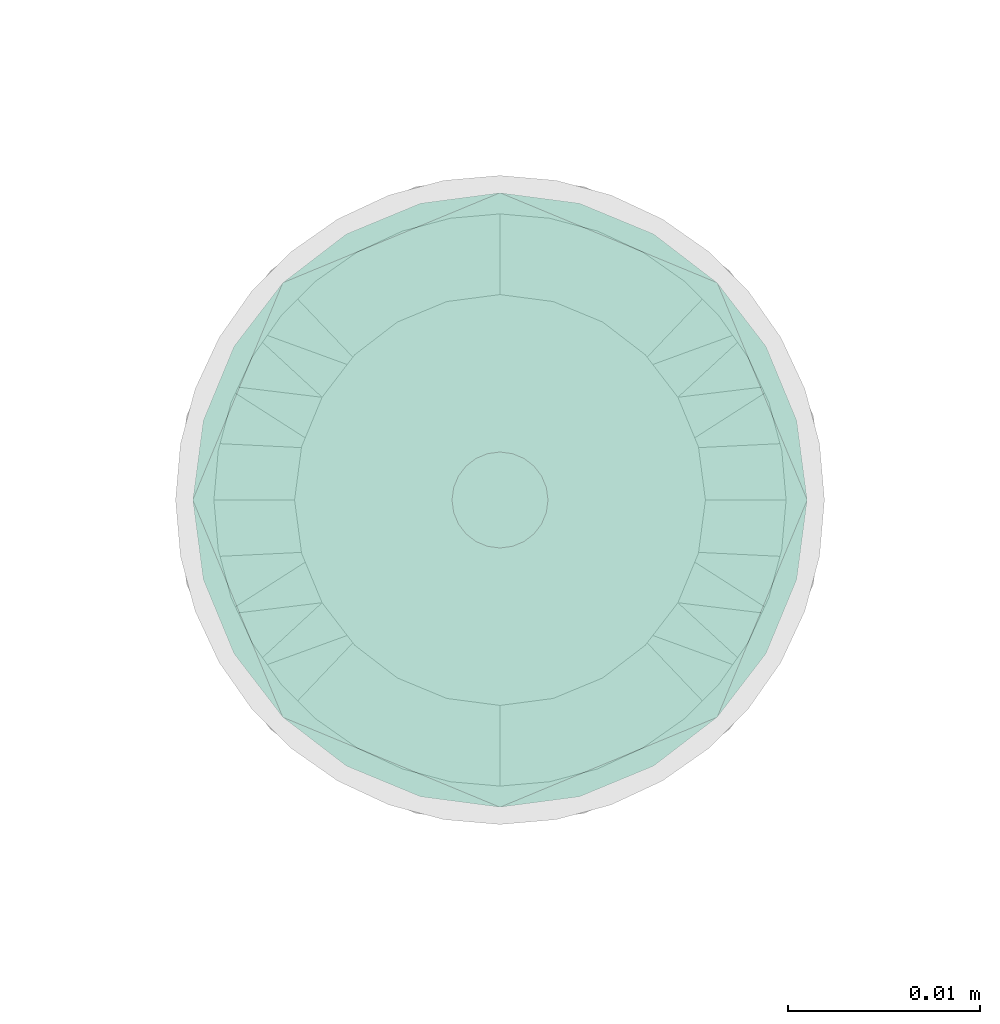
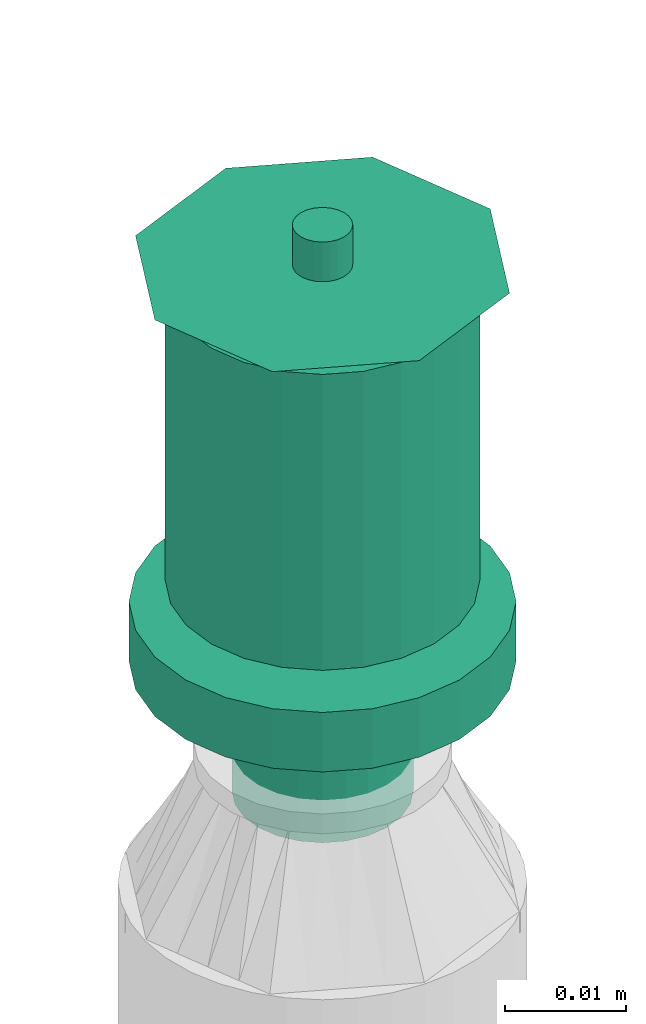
# One storey, part 6 of 44: 1 flow terminal.
"""IFC2X3 building model written with IfcOpenShell, lengths in millimetres."""

from ifc_helpers import new_model, entity, si_unit, converted_unit, derived_unit, direction, frame, origin_with_axes, place, context, subcontext, project, spatial, open_shell, surface_model, source, transform, mapped, type_object, element, save


model = new_model("IFC2X3")

# Units and contexts
model_context = context("Model", 3, precision=0.01, world=frame((0.0, 4.29681676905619e-09, 0.0)), true_north=direction((4.01073788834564e-13, 1.0)))
plan_context = context("Plan", 3, precision=0.01, world=frame((0.0, 4.29681676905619e-09, 0.0)), true_north=direction((4.01073788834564e-13, 1.0)))
body_context = subcontext(model_context, "Body", "Model", "MODEL_VIEW")
ifc_project = project(units=[converted_unit("PLANEANGLEUNIT", "DEGREE", entity("IfcPositiveLengthMeasure", 0.0174532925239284), si_unit("PLANEANGLEUNIT", "RADIAN"), dimensions=[0, 0, 0, 0, 0, 0, 0]), si_unit("AREAUNIT", "SQUARE_METRE"), si_unit("LENGTHUNIT", "METRE", prefix="MILLI"), si_unit("MASSUNIT", "GRAM", prefix="KILO"), si_unit("POWERUNIT", "WATT"), si_unit("PRESSUREUNIT", "PASCAL"), si_unit("FORCEUNIT", "NEWTON", prefix="KILO"), si_unit("ELECTRICVOLTAGEUNIT", "VOLT"), si_unit("ELECTRICCURRENTUNIT", "AMPERE"), si_unit("THERMODYNAMICTEMPERATUREUNIT", "DEGREE_CELSIUS"), si_unit("TIMEUNIT", "SECOND"), si_unit("VOLUMEUNIT", "CUBIC_METRE"), derived_unit("LINEARVELOCITYUNIT", [(si_unit("LENGTHUNIT", "METRE"), 1), (si_unit("TIMEUNIT", "SECOND"), -1)]), derived_unit("VOLUMETRICFLOWRATEUNIT", [(si_unit("VOLUMEUNIT", "CUBIC_METRE"), 1), (si_unit("TIMEUNIT", "SECOND"), -1)]), derived_unit("THERMALTRANSMITTANCEUNIT", [(si_unit("POWERUNIT", "WATT"), 1), (si_unit("THERMODYNAMICTEMPERATUREUNIT", "KELVIN"), -1), (si_unit("AREAUNIT", "SQUARE_METRE"), -1)]), derived_unit("SOUNDPRESSUREUNIT", [(si_unit("PRESSUREUNIT", "PASCAL"), 1)])], contexts=[model_context, plan_context])

# Site, building, storey
site_placement = place(None, frame((0.0, -4.29681676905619e-09, 0.0), z_axis=(0.0, 0.0, 1.0), x_axis=(1.0, 0.0, 0.0)))
site = spatial("IfcSite", under=ifc_project, at=site_placement, CompositionType="ELEMENT")
building_placement = place(site_placement, frame((0.0, 4.29681676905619e-09, 0.0), z_axis=(0.0, 0.0, 1.0), x_axis=(1.0, 0.0, 0.0)))
building = spatial("IfcBuilding", under=site, at=building_placement, Name="mc-building", CompositionType="ELEMENT")
storey_placement = place(building_placement, frame((0.0, 0.0, 207370.0), z_axis=(0.0, 0.0, 1.0), x_axis=(1.0, 0.0, 0.0)))
storey = spatial("IfcBuildingStorey", under=building, at=storey_placement, Name="Nivå E", CompositionType="ELEMENT", Elevation=207370.0)

# Flow terminal
fire_suppression_terminal_type = type_object("IfcFireSuppressionTerminalType", Name="68DGR-STD-STÅENDE", PredefinedType="NOTDEFINED")
shared_shape = source(origin_with_axes(), body_context, "Body", "SurfaceModel", [
    surface_model("IfcShellBasedSurfaceModel", [(3.36465, -12.55704, 51.0), (6.5, -11.25833, 51.0), (9.19239, -9.19239, 51.0), (12.55704, -3.36465, 51.0), (-11.25833, -6.5, 51.0), (11.25833, -6.5, 51.0), (-13.0, 0.0, 51.0), (0.0, -13.0, 51.0), (-6.5, -11.25833, 51.0), (-3.36465, -12.55704, 51.0), (-9.19239, -9.19239, 51.0), (-12.55704, -3.36465, 51.0), (13.0, 0.0, 51.0), (12.55704, 3.36465, 51.0), (11.25833, 6.5, 51.0), (9.19239, 9.19239, 51.0), (6.5, 11.25833, 51.0), (3.36465, 12.55704, 51.0), (0.0, 13.0, 51.0), (-3.36465, 12.55704, 51.0), (-12.55704, 3.36465, 51.0), (-9.19239, 9.19239, 51.0), (-11.25833, 6.5, 51.0), (-6.5, 11.25833, 51.0), (0.0, 13.0, 21.14766), (3.36465, 12.55704, 21.14766), (6.5, 11.25833, 21.14766), (-3.36465, 12.55704, 21.14766), (9.19239, 9.19239, 21.14766), (11.25833, 6.5, 21.14766), (12.55704, 3.36465, 21.14766), (-12.55704, 3.36465, 21.14766), (-11.25833, -6.5, 21.14766), (-9.19239, 9.19239, 21.14766), (-6.5, 11.25833, 21.14766), (-11.25833, 6.5, 21.14766), (-13.0, 0.0, 21.14766), (12.55704, -3.36465, 21.14766), (9.19239, -9.19239, 21.14766), (11.25833, -6.5, 21.14766), (6.5, -11.25833, 21.14766), (3.36465, -12.55704, 21.14766), (-6.5, -11.25833, 21.14766), (-9.19239, -9.19239, 21.14766), (-12.55704, -3.36465, 21.14766), (0.0, -13.0, 21.14766), (-3.36465, -12.55704, 21.14766), (13.0, 0.0, 21.14766), (7.24444, -1.94114, 0.1), (1.94114, -7.24444, 0.1), (3.75, -6.49519, 0.1), (5.3033, -5.3033, 0.1), (-5.3033, -5.3033, 0.1), (6.49519, -3.75, 0.1), (5.3033, 5.3033, 0.1), (0.0, -7.5, 0.1), (-3.75, -6.49519, 0.1), (-1.94114, -7.24444, 0.1), (-7.24444, -1.94114, 0.1), (-6.49519, -3.75, 0.1), (-7.24444, 1.94114, 0.1), (7.5, 0.0, 0.1), (6.49519, 3.75, 0.1), (-6.49519, 3.75, 0.1), (1.94114, 7.24444, 0.1), (0.0, 7.5, 0.1), (3.75, 6.49519, 0.1), (-7.5, 0.0, 0.1), (-5.3033, 5.3033, 0.1), (-1.94114, 7.24444, 0.1), (-3.75, 6.49519, 0.1), (7.24444, 1.94114, 0.1), (1.94114, 7.24444, -0.1), (-6.49519, 3.75, -0.1), (0.0, 7.5, -0.1), (5.3033, 5.3033, -0.1), (3.75, 6.49519, -0.1), (6.49519, 3.75, -0.1), (7.24444, 1.94114, -0.1), (-1.94114, 7.24444, -0.1), (-5.3033, 5.3033, -0.1), (-3.75, 6.49519, -0.1), (-7.24444, 1.94114, -0.1), (-7.24444, -1.94114, -0.1), (-7.5, 0.0, -0.1), (7.5, 0.0, -0.1), (7.24444, -1.94114, -0.1), (-5.3033, -5.3033, -0.1), (1.94114, -7.24444, -0.1), (6.49519, -3.75, -0.1), (5.3033, -5.3033, -0.1), (3.75, -6.49519, -0.1), (-6.49519, -3.75, -0.1), (-3.75, -6.49519, -0.1), (0.0, -7.5, -0.1), (-1.94114, -7.24444, -0.1), (0.0, -2.5, 51.0), (-2.5, 0.0, 51.0), (0.0, 2.5, 51.0), (2.5, 0.0, 51.0), (0.0, -16.0, 53.0), (11.31371, -11.31371, 53.0), (-11.31371, -11.31371, 53.0), (-16.0, 0.0, 53.0), (16.0, 0.0, 53.0), (11.31371, 11.31371, 53.0), (0.0, 16.0, 53.0), (-11.31371, 11.31371, 53.0), (1.25, -2.16506, 57.0), (0.0, -2.5, 57.0), (0.64705, -2.41481, 57.0), (2.41481, -0.64705, 57.0), (1.76777, -1.76777, 57.0), (-2.41481, -0.64705, 57.0), (-2.5, 0.0, 57.0), (2.16506, -1.25, 57.0), (-1.25, -2.16506, 57.0), (-0.64705, -2.41481, 57.0), (-1.76777, -1.76777, 57.0), (-2.16506, -1.25, 57.0), (2.5, 0.0, 57.0), (2.41481, 0.64705, 57.0), (2.16506, 1.25, 57.0), (1.76777, 1.76777, 57.0), (0.64705, 2.41481, 57.0), (1.25, 2.16506, 57.0), (-1.76777, 1.76777, 57.0), (0.0, 2.5, 57.0), (-2.16506, 1.25, 57.0), (-2.41481, 0.64705, 57.0), (-0.64705, 2.41481, 57.0), (-1.25, 2.16506, 57.0), (1.25, 2.16506, 51.0), (1.76777, 1.76777, 51.0), (1.15, 1.99186, 51.0), (0.59528, 2.22163, 51.0), (0.64705, 2.41481, 51.0), (0.0, 2.3, 51.0), (1.62635, 1.62635, 51.0), (2.41481, 0.64705, 51.0), (2.3, 0.0, 51.0), (2.22163, 0.59528, 51.0), (2.16506, 1.25, 51.0), (1.99186, 1.15, 51.0), (-0.59528, 2.22163, 51.0), (-0.64705, 2.41481, 51.0), (-1.15, 1.99186, 51.0), (-1.76777, 1.76777, 51.0), (-1.25, 2.16506, 51.0), (-1.62635, 1.62635, 51.0), (-1.99186, 1.15, 51.0), (-2.16506, 1.25, 51.0), (-2.22163, 0.59528, 51.0), (-2.41481, 0.64705, 51.0), (-2.3, 0.0, 51.0), (2.41481, -0.64705, 51.0), (2.22163, -0.59528, 51.0), (1.99186, -1.15, 51.0), (2.16506, -1.25, 51.0), (1.62635, -1.62635, 51.0), (1.76777, -1.76777, 51.0), (1.25, -2.16506, 51.0), (1.15, -1.99186, 51.0), (0.59528, -2.22163, 51.0), (0.64705, -2.41481, 51.0), (0.0, -2.3, 51.0), (-2.16506, -1.25, 51.0), (-1.99186, -1.15, 51.0), (-1.76777, -1.76777, 51.0), (-1.62635, -1.62635, 51.0), (-2.41481, -0.64705, 51.0), (-2.22163, -0.59528, 51.0), (-0.59528, -2.22163, 51.0), (-0.64705, -2.41481, 51.0), (-1.15, -1.99186, 51.0), (-1.25, -2.16506, 51.0), (1.62635, -1.62635, 56.8), (1.15, -1.99186, 56.8), (0.59528, -2.22163, 56.8), (0.0, -2.3, 56.8), (2.22163, 0.59528, 56.8), (1.99186, -1.15, 56.8), (2.22163, -0.59528, 56.8), (-0.59528, -2.22163, 56.8), (-1.15, -1.99186, 56.8), (-1.62635, -1.62635, 56.8), (-1.99186, -1.15, 56.8), (-2.22163, -0.59528, 56.8), (-1.99186, 1.15, 56.8), (2.3, 0.0, 56.8), (1.62635, 1.62635, 56.8), (1.99186, 1.15, 56.8), (1.15, 1.99186, 56.8), (0.0, 2.3, 56.8), (0.59528, 2.22163, 56.8), (-2.22163, 0.59528, 56.8), (-2.3, 0.0, 56.8), (-1.15, 1.99186, 56.8), (-0.59528, 2.22163, 56.8), (-1.62635, 1.62635, 56.8), (4.1411, -15.45481, 19.0), (8.0, -13.85641, 19.0), (11.31371, -11.31371, 19.0), (-8.0, -13.85641, 19.0), (15.45481, -4.1411, 19.0), (16.0, 0.0, 19.0), (13.85641, -8.0, 19.0), (0.0, -16.0, 19.0), (-4.1411, -15.45481, 19.0), (-13.85641, -8.0, 19.0), (-11.31371, -11.31371, 19.0), (-15.45481, -4.1411, 19.0), (15.45481, 4.1411, 19.0), (13.85641, 8.0, 19.0), (11.31371, 11.31371, 19.0), (-4.1411, 15.45481, 19.0), (8.0, 13.85641, 19.0), (4.1411, 15.45481, 19.0), (0.0, 16.0, 19.0), (-13.85641, 8.0, 19.0), (-15.45481, 4.1411, 19.0), (-16.0, 0.0, 19.0), (-11.31371, 11.31371, 19.0), (-8.0, 13.85641, 19.0), (0.0, 16.0, 13.0), (4.1411, 15.45481, 13.0), (8.0, 13.85641, 13.0), (-4.1411, 15.45481, 13.0), (11.31371, 11.31371, 13.0), (13.85641, 8.0, 13.0), (15.45481, 4.1411, 13.0), (-15.45481, -4.1411, 13.0), (-11.31371, 11.31371, 13.0), (-8.0, 13.85641, 13.0), (-13.85641, 8.0, 13.0), (-15.45481, 4.1411, 13.0), (-16.0, 0.0, 13.0), (4.1411, -15.45481, 13.0), (16.0, 0.0, 13.0), (15.45481, -4.1411, 13.0), (13.85641, -8.0, 13.0), (11.31371, -11.31371, 13.0), (8.0, -13.85641, 13.0), (-8.0, -13.85641, 13.0), (-13.85641, -8.0, 13.0), (-11.31371, -11.31371, 13.0), (0.0, -16.0, 13.0), (-4.1411, -15.45481, 13.0), (7.24444, -1.94114, 13.0), (1.94114, -7.24444, 13.0), (3.75, -6.49519, 13.0), (5.3033, -5.3033, 13.0), (-5.3033, -5.3033, 13.0), (6.49519, -3.75, 13.0), (5.3033, 5.3033, 13.0), (0.0, -7.5, 13.0), (-3.75, -6.49519, 13.0), (-1.94114, -7.24444, 13.0), (-7.24444, -1.94114, 13.0), (-6.49519, -3.75, 13.0), (-7.24444, 1.94114, 13.0), (7.5, 0.0, 13.0), (6.49519, 3.75, 13.0), (-6.49519, 3.75, 13.0), (1.94114, 7.24444, 13.0), (0.0, 7.5, 13.0), (3.75, 6.49519, 13.0), (-7.5, 0.0, 13.0), (-5.3033, 5.3033, 13.0), (-1.94114, 7.24444, 13.0), (-3.75, 6.49519, 13.0), (7.24444, 1.94114, 13.0), (3.75, 6.49519, 0.0), (5.3033, 5.3033, 0.0), (3.65, 6.32199, 0.0), (1.88938, 7.05126, 0.0), (0.0, 7.3, 0.0), (1.94114, 7.24444, 0.0), (0.0, 7.5, 0.0), (5.16188, 5.16188, 0.0), (7.24444, 1.94114, 0.0), (7.3, 0.0, 0.0), (7.05126, 1.88938, 0.0), (7.5, 0.0, 0.0), (6.49519, 3.75, 0.0), (6.32199, 3.65, 0.0), (-1.88938, 7.05126, 0.0), (-1.94114, 7.24444, 0.0), (-3.65, 6.32199, 0.0), (-5.3033, 5.3033, 0.0), (-3.75, 6.49519, 0.0), (-5.16188, 5.16188, 0.0), (-6.32199, 3.65, 0.0), (-6.49519, 3.75, 0.0), (-7.05126, 1.88938, 0.0), (-7.24444, 1.94114, 0.0), (-7.3, 0.0, 0.0), (-7.5, 0.0, 0.0), (7.24444, -1.94114, 0.0), (7.05126, -1.88938, 0.0), (6.32199, -3.65, 0.0), (6.49519, -3.75, 0.0), (5.16188, -5.16188, 0.0), (5.3033, -5.3033, 0.0), (3.75, -6.49519, 0.0), (3.65, -6.32199, 0.0), (1.88938, -7.05126, 0.0), (1.94114, -7.24444, 0.0), (0.0, -7.3, 0.0), (0.0, -7.5, 0.0), (-6.49519, -3.75, 0.0), (-6.32199, -3.65, 0.0), (-5.3033, -5.3033, 0.0), (-5.16188, -5.16188, 0.0), (-7.24444, -1.94114, 0.0), (-7.05126, -1.88938, 0.0), (-1.88938, -7.05126, 0.0), (-1.94114, -7.24444, 0.0), (-3.65, -6.32199, 0.0), (-3.75, -6.49519, 0.0), (1.88938, -7.05126, 12.8), (0.0, -7.3, 12.8), (3.65, -6.32199, 12.8), (5.16188, -5.16188, 12.8), (6.32199, -3.65, 12.8), (7.05126, 1.88938, 12.8), (7.05126, -1.88938, 12.8), (-5.16188, -5.16188, 12.8), (-1.88938, -7.05126, 12.8), (-3.65, -6.32199, 12.8), (-6.32199, -3.65, 12.8), (-7.05126, -1.88938, 12.8), (0.0, 7.3, 12.8), (7.3, 0.0, 12.8), (6.32199, 3.65, 12.8), (5.16188, 5.16188, 12.8), (3.65, 6.32199, 12.8), (1.88938, 7.05126, 12.8), (-6.32199, 3.65, 12.8), (-7.05126, 1.88938, 12.8), (-7.3, 0.0, 12.8), (-3.65, 6.32199, 12.8), (-1.88938, 7.05126, 12.8), (-5.16188, 5.16188, 12.8)], [open_shell([[[0, 1, 2]], [[0, 2, 3]], [[0, 3, 4]], [[3, 2, 5]], [[6, 4, 3]], [[7, 8, 9]], [[7, 0, 8]], [[8, 4, 10]], [[0, 4, 8]], [[4, 6, 11]], [[6, 3, 12]], [[13, 14, 15]], [[6, 13, 15]], [[16, 17, 18]], [[15, 16, 19]], [[18, 19, 16]], [[20, 21, 22]], [[20, 6, 15]], [[21, 19, 23]], [[19, 21, 20]], [[15, 19, 20]], [[13, 6, 12]], [[24, 25, 26]], [[27, 24, 26]], [[28, 29, 30]], [[26, 28, 31]], [[28, 32, 31]], [[27, 33, 34]], [[33, 27, 31]], [[33, 31, 35]], [[27, 26, 31]], [[31, 32, 36]], [[32, 28, 30]], [[32, 30, 37]], [[38, 37, 39]], [[38, 40, 41]], [[38, 41, 37]], [[32, 37, 41]], [[32, 42, 43]], [[44, 36, 32]], [[42, 45, 46]], [[42, 32, 41]], [[45, 42, 41]], [[30, 47, 37]], [[4, 32, 43]], [[8, 42, 46]], [[43, 42, 10]], [[9, 46, 45]], [[36, 11, 6]], [[11, 36, 44]], [[11, 44, 4]], [[44, 32, 4]], [[43, 10, 4]], [[8, 10, 42]], [[46, 9, 8]], [[45, 7, 9]], [[0, 41, 40]], [[38, 1, 40]], [[5, 39, 37]], [[38, 39, 2]], [[3, 37, 47]], [[41, 0, 7]], [[40, 1, 0]], [[38, 2, 1]], [[39, 5, 2]], [[3, 5, 37]], [[47, 12, 3]], [[41, 7, 45]], [[30, 13, 47]], [[29, 14, 30]], [[25, 24, 17]], [[15, 29, 28]], [[30, 14, 13]], [[13, 12, 47]], [[16, 26, 17]], [[16, 15, 28]], [[26, 25, 17]], [[15, 14, 29]], [[28, 26, 16]], [[24, 18, 17]], [[19, 27, 34]], [[33, 23, 34]], [[22, 35, 31]], [[33, 35, 21]], [[20, 31, 36]], [[27, 19, 18]], [[34, 23, 19]], [[33, 21, 23]], [[35, 22, 21]], [[20, 22, 31]], [[36, 6, 20]], [[27, 18, 24]], [[48, 49, 50]], [[48, 50, 51]], [[49, 48, 52]], [[48, 51, 53]], [[54, 52, 48]], [[55, 56, 57]], [[56, 55, 52]], [[52, 58, 59]], [[52, 55, 49]], [[52, 60, 58]], [[54, 48, 61]], [[62, 54, 61]], [[54, 63, 52]], [[64, 65, 54]], [[64, 54, 66]], [[63, 54, 65]], [[63, 60, 52]], [[67, 58, 60]], [[68, 69, 70]], [[69, 68, 63]], [[69, 63, 65]], [[71, 62, 61]], [[72, 73, 74]], [[75, 72, 76]], [[75, 77, 78]], [[72, 75, 73]], [[78, 73, 75]], [[79, 80, 81]], [[80, 79, 73]], [[74, 73, 79]], [[78, 82, 73]], [[82, 83, 84]], [[82, 78, 85]], [[86, 87, 85]], [[88, 86, 89]], [[90, 91, 88]], [[90, 88, 89]], [[87, 86, 88]], [[83, 87, 92]], [[83, 85, 87]], [[93, 94, 95]], [[94, 93, 87]], [[88, 94, 87]], [[85, 83, 82]], [[83, 58, 84]], [[92, 59, 83]], [[56, 87, 93]], [[92, 87, 52]], [[57, 93, 95]], [[83, 59, 58]], [[58, 67, 84]], [[57, 56, 93]], [[52, 87, 56]], [[52, 59, 92]], [[55, 57, 95]], [[95, 94, 55]], [[88, 49, 94]], [[91, 50, 88]], [[53, 90, 89]], [[91, 90, 51]], [[48, 89, 86]], [[91, 51, 50]], [[50, 49, 88]], [[61, 48, 86]], [[53, 89, 48]], [[53, 51, 90]], [[85, 61, 86]], [[94, 49, 55]], [[78, 71, 85]], [[77, 62, 78]], [[66, 75, 76]], [[77, 75, 54]], [[64, 76, 72]], [[78, 62, 71]], [[71, 61, 85]], [[64, 66, 76]], [[54, 75, 66]], [[54, 62, 77]], [[65, 64, 72]], [[72, 74, 65]], [[79, 69, 74]], [[81, 70, 79]], [[63, 80, 73]], [[81, 80, 68]], [[60, 73, 82]], [[81, 68, 70]], [[70, 69, 79]], [[67, 60, 82]], [[63, 73, 60]], [[63, 68, 80]], [[84, 67, 82]], [[74, 69, 65]], [[96, 97, 98]], [[98, 99, 96]], [[100, 101, 102]], [[103, 102, 101]], [[101, 104, 103]], [[104, 105, 106]], [[107, 103, 106]], [[106, 103, 104]], [[99, 98, 105]], [[105, 104, 99]], [[98, 106, 105]], [[98, 107, 106]], [[107, 98, 97]], [[103, 107, 97]], [[97, 96, 102]], [[102, 103, 97]], [[96, 100, 102]], [[96, 101, 100]], [[101, 96, 99]], [[104, 101, 99]], [[108, 109, 110]], [[111, 108, 112]], [[113, 108, 114]], [[111, 112, 115]], [[108, 111, 114]], [[109, 116, 117]], [[116, 109, 118]], [[118, 113, 119]], [[118, 109, 108]], [[108, 113, 118]], [[111, 120, 114]], [[121, 122, 123]], [[114, 121, 123]], [[114, 123, 124]], [[124, 123, 125]], [[126, 124, 127]], [[124, 128, 129]], [[129, 114, 124]], [[126, 130, 131]], [[128, 124, 126]], [[130, 126, 127]], [[121, 114, 120]], [[132, 133, 134]], [[132, 134, 135]], [[136, 135, 137]], [[135, 136, 132]], [[136, 137, 98]], [[134, 133, 138]], [[139, 140, 141]], [[140, 139, 99]], [[139, 141, 142]], [[138, 142, 143]], [[142, 138, 133]], [[143, 142, 141]], [[98, 144, 145]], [[98, 137, 144]], [[145, 144, 146]], [[147, 148, 149]], [[146, 148, 145]], [[149, 148, 146]], [[150, 151, 147]], [[151, 150, 152]], [[150, 147, 149]], [[153, 152, 154]], [[152, 153, 151]], [[153, 154, 97]], [[99, 155, 156]], [[156, 155, 157]], [[157, 158, 159]], [[158, 157, 155]], [[159, 158, 160]], [[160, 161, 162]], [[162, 161, 163]], [[163, 164, 165]], [[164, 163, 161]], [[165, 164, 96]], [[162, 159, 160]], [[166, 167, 168]], [[168, 167, 169]], [[167, 166, 170]], [[97, 171, 170]], [[170, 171, 167]], [[97, 154, 171]], [[172, 96, 173]], [[172, 173, 174]], [[169, 175, 168]], [[175, 169, 174]], [[175, 174, 173]], [[165, 96, 172]], [[156, 140, 99]], [[170, 113, 97]], [[166, 119, 170]], [[116, 168, 175]], [[166, 168, 118]], [[117, 175, 173]], [[170, 119, 113]], [[113, 114, 97]], [[117, 116, 175]], [[118, 168, 116]], [[118, 119, 166]], [[109, 117, 173]], [[173, 96, 109]], [[164, 110, 96]], [[161, 108, 164]], [[115, 160, 158]], [[161, 160, 112]], [[111, 158, 155]], [[161, 112, 108]], [[108, 110, 164]], [[120, 111, 155]], [[115, 158, 111]], [[115, 112, 160]], [[99, 120, 155]], [[96, 110, 109]], [[139, 121, 99]], [[142, 122, 139]], [[125, 133, 132]], [[142, 133, 123]], [[124, 132, 136]], [[139, 122, 121]], [[121, 120, 99]], [[124, 125, 132]], [[123, 133, 125]], [[123, 122, 142]], [[127, 124, 136]], [[136, 98, 127]], [[145, 130, 98]], [[148, 131, 145]], [[128, 147, 151]], [[148, 147, 126]], [[129, 151, 153]], [[148, 126, 131]], [[131, 130, 145]], [[114, 129, 153]], [[128, 151, 129]], [[128, 126, 147]], [[97, 114, 153]], [[98, 130, 127]], [[176, 177, 178]], [[176, 178, 179]], [[180, 176, 179]], [[181, 176, 182]], [[180, 182, 176]], [[183, 184, 179]], [[185, 179, 184]], [[186, 187, 185]], [[185, 187, 188]], [[179, 185, 188]], [[189, 182, 180]], [[190, 191, 180]], [[192, 190, 180]], [[193, 194, 192]], [[180, 193, 192]], [[188, 193, 180]], [[195, 188, 196]], [[196, 188, 187]], [[197, 198, 199]], [[188, 199, 198]], [[188, 198, 193]], [[180, 179, 188]], [[154, 187, 171]], [[171, 186, 167]], [[174, 169, 184]], [[185, 169, 167]], [[172, 174, 183]], [[187, 186, 171]], [[154, 196, 187]], [[174, 184, 183]], [[184, 169, 185]], [[167, 186, 185]], [[172, 183, 179]], [[179, 165, 172]], [[165, 178, 163]], [[163, 177, 162]], [[157, 159, 181]], [[176, 159, 162]], [[156, 157, 182]], [[177, 176, 162]], [[163, 178, 177]], [[156, 182, 189]], [[182, 157, 181]], [[159, 176, 181]], [[156, 189, 140]], [[179, 178, 165]], [[140, 180, 141]], [[141, 191, 143]], [[134, 138, 192]], [[190, 138, 143]], [[135, 134, 194]], [[180, 191, 141]], [[140, 189, 180]], [[134, 192, 194]], [[192, 138, 190]], [[143, 191, 190]], [[135, 194, 193]], [[193, 137, 135]], [[137, 198, 144]], [[144, 197, 146]], [[150, 149, 188]], [[199, 149, 146]], [[152, 150, 195]], [[197, 199, 146]], [[144, 198, 197]], [[152, 195, 196]], [[195, 150, 188]], [[149, 199, 188]], [[152, 196, 154]], [[193, 198, 137]], [[200, 201, 202]], [[203, 200, 202]], [[204, 205, 202]], [[204, 202, 206]], [[203, 202, 205]], [[207, 203, 208]], [[207, 200, 203]], [[203, 209, 210]], [[209, 203, 211]], [[205, 211, 203]], [[205, 212, 211]], [[212, 213, 214]], [[215, 212, 214]], [[216, 217, 218]], [[214, 216, 215]], [[218, 215, 216]], [[211, 219, 220]], [[221, 211, 220]], [[222, 215, 223]], [[215, 222, 219]], [[219, 211, 215]], [[211, 212, 215]], [[224, 225, 226]], [[227, 224, 226]], [[228, 229, 230]], [[227, 226, 228]], [[227, 228, 231]], [[227, 232, 233]], [[232, 227, 234]], [[234, 231, 235]], [[231, 234, 227]], [[235, 231, 236]], [[228, 230, 231]], [[237, 238, 239]], [[237, 239, 240]], [[241, 242, 237]], [[241, 237, 240]], [[238, 237, 243]], [[244, 243, 245]], [[243, 244, 231]], [[243, 246, 247]], [[243, 231, 238]], [[237, 246, 243]], [[238, 231, 230]], [[231, 211, 236]], [[244, 209, 231]], [[203, 245, 243]], [[244, 245, 210]], [[208, 243, 247]], [[231, 209, 211]], [[211, 221, 236]], [[208, 203, 243]], [[210, 245, 203]], [[210, 209, 244]], [[207, 208, 247]], [[247, 246, 207]], [[237, 200, 246]], [[242, 201, 237]], [[206, 241, 240]], [[242, 241, 202]], [[204, 240, 239]], [[242, 202, 201]], [[201, 200, 237]], [[205, 204, 239]], [[206, 240, 204]], [[206, 202, 241]], [[238, 205, 239]], [[246, 200, 207]], [[230, 212, 238]], [[229, 213, 230]], [[216, 228, 226]], [[229, 228, 214]], [[217, 226, 225]], [[230, 213, 212]], [[212, 205, 238]], [[217, 216, 226]], [[214, 228, 216]], [[214, 213, 229]], [[218, 217, 225]], [[225, 224, 218]], [[227, 215, 224]], [[233, 223, 227]], [[219, 232, 234]], [[233, 232, 222]], [[220, 234, 235]], [[233, 222, 223]], [[223, 215, 227]], [[221, 220, 235]], [[219, 234, 220]], [[219, 222, 232]], [[236, 221, 235]], [[224, 215, 218]], [[248, 249, 250]], [[248, 250, 251]], [[249, 248, 252]], [[248, 251, 253]], [[254, 252, 248]], [[255, 256, 257]], [[256, 255, 252]], [[252, 258, 259]], [[252, 255, 249]], [[252, 260, 258]], [[254, 248, 261]], [[262, 254, 261]], [[254, 263, 252]], [[264, 265, 254]], [[264, 254, 266]], [[263, 254, 265]], [[263, 260, 252]], [[267, 258, 260]], [[268, 269, 270]], [[269, 268, 263]], [[269, 263, 265]], [[271, 262, 261]], [[272, 273, 274]], [[272, 274, 275]], [[276, 277, 275]], [[277, 276, 278]], [[275, 277, 272]], [[274, 273, 279]], [[280, 281, 282]], [[281, 280, 283]], [[280, 282, 284]], [[279, 284, 285]], [[284, 279, 273]], [[285, 284, 282]], [[278, 286, 287]], [[287, 286, 288]], [[289, 290, 291]], [[288, 290, 287]], [[288, 291, 290]], [[278, 276, 286]], [[292, 293, 289]], [[293, 292, 294]], [[292, 289, 291]], [[295, 294, 296]], [[294, 295, 293]], [[295, 296, 297]], [[283, 298, 299]], [[299, 298, 300]], [[300, 301, 302]], [[301, 300, 298]], [[302, 301, 303]], [[303, 304, 305]], [[305, 304, 306]], [[306, 307, 308]], [[307, 306, 304]], [[308, 307, 309]], [[305, 302, 303]], [[310, 311, 312]], [[312, 311, 313]], [[311, 310, 314]], [[297, 315, 314]], [[314, 315, 311]], [[297, 296, 315]], [[316, 309, 317]], [[316, 317, 318]], [[313, 319, 312]], [[313, 318, 319]], [[319, 318, 317]], [[308, 309, 316]], [[299, 281, 283]], [[314, 258, 297]], [[310, 259, 314]], [[256, 312, 319]], [[310, 312, 252]], [[257, 319, 317]], [[314, 259, 258]], [[258, 267, 297]], [[257, 256, 319]], [[252, 312, 256]], [[252, 259, 310]], [[255, 257, 317]], [[317, 309, 255]], [[307, 249, 309]], [[304, 250, 307]], [[253, 303, 301]], [[304, 303, 251]], [[248, 301, 298]], [[304, 251, 250]], [[250, 249, 307]], [[261, 248, 298]], [[253, 301, 248]], [[253, 251, 303]], [[283, 261, 298]], [[309, 249, 255]], [[280, 271, 283]], [[284, 262, 280]], [[266, 273, 272]], [[284, 273, 254]], [[264, 272, 277]], [[280, 262, 271]], [[271, 261, 283]], [[264, 266, 272]], [[254, 273, 266]], [[254, 262, 284]], [[265, 264, 277]], [[277, 278, 265]], [[287, 269, 278]], [[290, 270, 287]], [[263, 289, 293]], [[290, 289, 268]], [[260, 293, 295]], [[290, 268, 270]], [[270, 269, 287]], [[267, 260, 295]], [[263, 293, 260]], [[263, 268, 289]], [[297, 267, 295]], [[278, 269, 265]], [[320, 321, 322]], [[323, 322, 324]], [[325, 326, 322]], [[324, 322, 326]], [[322, 327, 325]], [[328, 329, 321]], [[327, 321, 329]], [[330, 331, 327]], [[322, 321, 327]], [[331, 332, 327]], [[326, 325, 333]], [[334, 325, 332]], [[335, 334, 336]], [[332, 337, 336]], [[334, 332, 336]], [[331, 338, 332]], [[339, 338, 340]], [[340, 338, 331]], [[341, 342, 343]], [[332, 338, 343]], [[332, 343, 342]], [[332, 325, 327]], [[296, 331, 315]], [[315, 330, 311]], [[318, 313, 329]], [[327, 313, 311]], [[316, 318, 328]], [[331, 330, 315]], [[296, 340, 331]], [[318, 329, 328]], [[329, 313, 327]], [[311, 330, 327]], [[316, 328, 321]], [[321, 308, 316]], [[308, 320, 306]], [[306, 322, 305]], [[300, 302, 324]], [[323, 302, 305]], [[299, 300, 326]], [[322, 323, 305]], [[306, 320, 322]], [[299, 326, 333]], [[326, 300, 324]], [[302, 323, 324]], [[299, 333, 281]], [[321, 320, 308]], [[281, 325, 282]], [[282, 334, 285]], [[274, 279, 336]], [[335, 279, 285]], [[275, 274, 337]], [[325, 334, 282]], [[281, 333, 325]], [[274, 336, 337]], [[336, 279, 335]], [[285, 334, 335]], [[275, 337, 332]], [[332, 276, 275]], [[276, 342, 286]], [[286, 341, 288]], [[292, 291, 338]], [[343, 291, 288]], [[294, 292, 339]], [[341, 343, 288]], [[286, 342, 341]], [[294, 339, 340]], [[339, 292, 338]], [[291, 343, 338]], [[294, 340, 296]], [[332, 342, 276]]])]),
])
flow_terminal_placement = place(storey_placement, frame((527500.0, 447269.83177, 3036.95754999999), z_axis=(0.0, 0.0, 1.0), x_axis=(1.0, 0.0, 0.0)))
element("IfcFlowTerminal", 1, at=flow_terminal_placement, inside=storey, type_object=fire_suppression_terminal_type, Name="68DGR-STD-STÅENDE", context=body_context, shape_type="MappedRepresentation", body=[
    mapped(shared_shape, transform((0.0, 0.0, 0.0), scale=1.0)),
])

save(model, "model.ifc")
